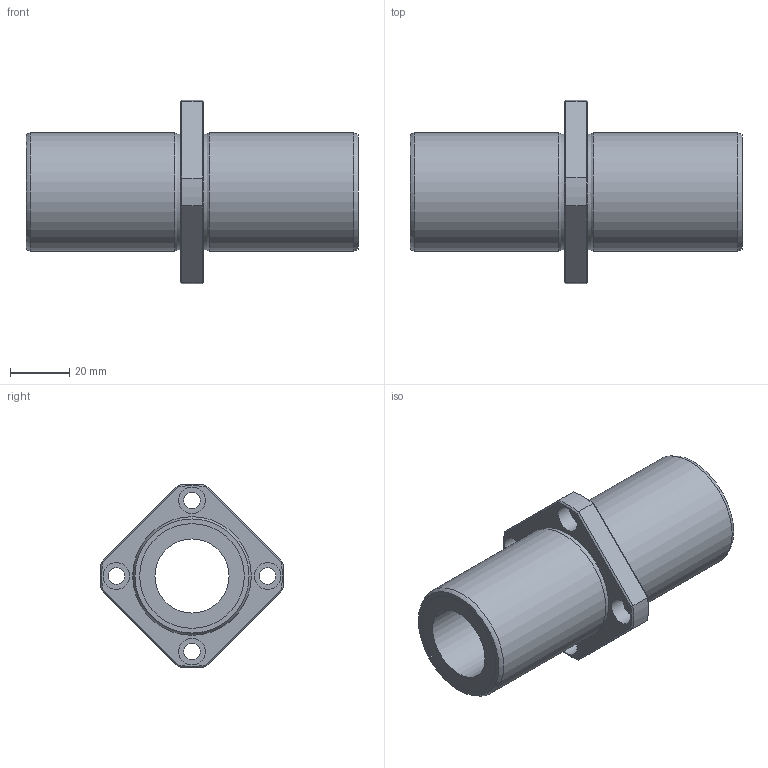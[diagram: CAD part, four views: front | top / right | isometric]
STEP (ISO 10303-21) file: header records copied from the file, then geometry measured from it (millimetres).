
FILE_DESCRIPTION((''),'2;1');
FILE_NAME('D:\製品 (図面)\カタログ用3D\リニアベアリング関連\STEP形式\LFDKC\LFDKC25.stp','2010-06-03T09:38:28',('Tsuchiya'),(''),'Autodesk Inventor 10','Autodesk Inventor 10','');
FILE_SCHEMA(('AUTOMOTIVE_DESIGN { 1 0 10303 214 1 1 1 1 }'));
Length unit declared in the file: millimetre
Products named in the file (1): LFDKC25
Bounding box: 112 x 61.92 x 61.92 mm (x, y, z)
Volume: 93035.3 mm3; surface area: 27681 mm2
Topology: 1 solids, 1 shells, 51 faces, 103 edges, 62 vertices
Faces by surface type: plane 22, cylinder 17, cone 8, torus 2, bspline 2
Full cylindrical faces by diameter (mm): 5.5 x4, 9 x4, 25 x1, 35.3 x2, 40 x2
Entity records: 1413 total; most frequent: CARTESIAN_POINT 372, DIRECTION 216, ORIENTED_EDGE 172, AXIS2_PLACEMENT_3D 96, EDGE_CURVE 86, EDGE_LOOP 86, VERTEX_POINT 62, FACE_OUTER_BOUND 51
